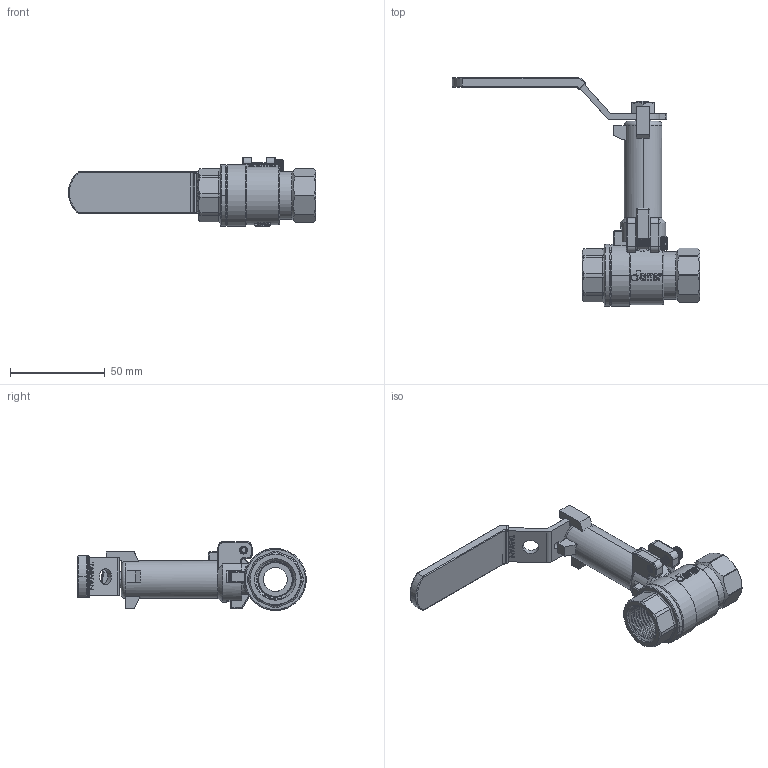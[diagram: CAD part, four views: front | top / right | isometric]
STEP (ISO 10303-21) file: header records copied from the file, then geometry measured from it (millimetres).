
FILE_DESCRIPTION (( 'STEP AP203' ), '1' );
FILE_NAME ('DN15-JOMAR增高套筒估價圖-牙口無掛鎖.STEP', '2024-04-09T07:41:58', ( '' ), ( '' ), 'SwSTEP 2.0', 'SolidWorks 2018', '' );
FILE_SCHEMA (( 'CONFIG_CONTROL_DESIGN' ));
Length unit declared in the file: millimetre
Products named in the file (17): DN15-白鐵中心栓牙套; BBL703A-0.5''''JOMAR球閥八角頭-無鉛-端面無插溝; SCREW-M4-19L; EBL203; DN15-JOMAR增高套筒估價圖-牙口無掛鎖; CBL211; BBL703-0.5''''JOMAR球閥體-無鉛-端面無插溝; DN15-CBL211白色膠套-T-200CSSG; EBL203A; DN15-CBL703-HANDLE & SLEEVE 組合(白色T膠套); EBL203B; NBL262; GBL211; DN15-PIPE 2; RBL263; DN8 & DN10 & DN15-白鐵中心栓; TBL163-無鑽孔
Assembly tree (18 placements, depth 3):
  DN15-JOMAR增高套筒估價圖-牙口無掛鎖
    BBL703-0.5''''JOMAR球閥體-無鉛-端面無插溝
    EBL203A
    EBL203B
    GBL211
    RBL263
    TBL163-無鑽孔
    BBL703A-0.5''''JOMAR球閥八角頭-無鉛-端面無插溝
    EBL203  x2
    DN15-CBL703-HANDLE & SLEEVE 組合(白色T膠套)
      CBL211
      DN15-CBL211白色膠套-T-200CSSG
    NBL262
    DN15-CBL211白色膠套-T-200CSSG
    DN15-PIPE 2
    DN8 & DN10 & DN15-白鐵中心栓
    DN15-白鐵中心栓牙套
    SCREW-M4-19L
Bounding box: 130.45 x 120.66 x 36.35 mm (x, y, z)
Volume: 60507.2 mm3; surface area: 56735.3 mm2
Topology: 17 solids, 17 shells, 4241 faces, 11458 edges, 7558 vertices
Faces by surface type: plane 2234, bspline 1155, cylinder 634, cone 155, torus 55, sphere 8
Entity records: 169642 total; most frequent: CARTESIAN_POINT 103309, ORIENTED_EDGE 15316, DIRECTION 10420, EDGE_CURVE 7658, VERTEX_POINT 5043, VECTOR 4150, LINE 4150, AXIS2_PLACEMENT_3D 3135
